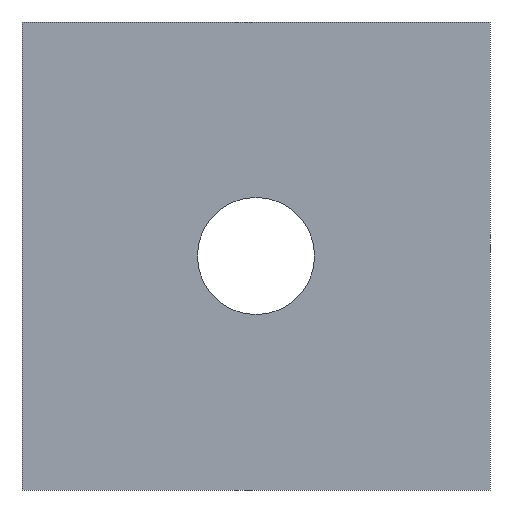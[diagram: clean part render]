
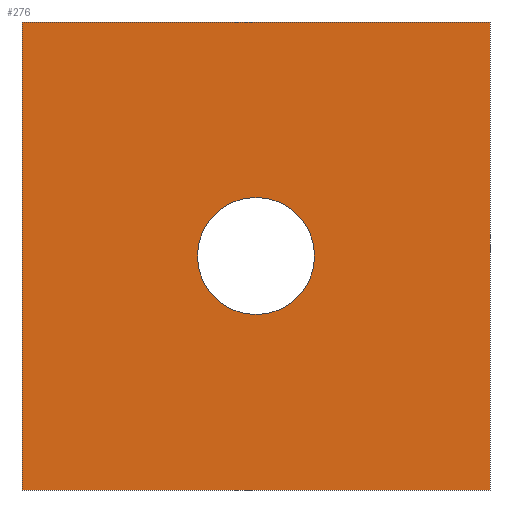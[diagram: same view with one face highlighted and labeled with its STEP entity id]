
A CAD part, front view. The second image highlights one B-rep face of the part: STEP entity #276.
In plain terms, the highlighted planar face has unit normal (0, -1, 0).
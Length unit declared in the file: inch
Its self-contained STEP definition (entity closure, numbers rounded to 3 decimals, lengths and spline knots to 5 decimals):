
#3 = EDGE_CURVE ( 'NONE', #176, #210, #173, .T. ) ;
#8 = EDGE_CURVE ( 'NONE', #178, #212, #179, .T. ) ;
#12 = EDGE_CURVE ( 'NONE', #212, #227, #245, .T. ) ;
#13 = EDGE_CURVE ( 'NONE', #195, #178, #259, .T. ) ;
#18 = AXIS2_PLACEMENT_3D ( 'NONE', #64, #48, #53 ) ;
#20 = AXIS2_PLACEMENT_3D ( 'NONE', #96, #104, #97 ) ;
#23 = EDGE_CURVE ( 'NONE', #210, #176, #253, .T. ) ;
#24 = EDGE_CURVE ( 'NONE', #227, #195, #230, .T. ) ;
#42 = AXIS2_PLACEMENT_3D ( 'NONE', #116, #73, #74 ) ;
#48 = DIRECTION ( 'NONE',  ( 0., 1., 0. ) ) ;
#53 = DIRECTION ( 'NONE',  ( 0., 0., 1. ) ) ;
#55 = CARTESIAN_POINT ( 'NONE',  ( 0., 0., -1.5 ) ) ;
#64 = CARTESIAN_POINT ( 'NONE',  ( 0.75, 0., -0.75 ) ) ;
#70 = DIRECTION ( 'NONE',  ( -1., 0., 0. ) ) ;
#71 = CARTESIAN_POINT ( 'NONE',  ( 0.75, 0., -0.9375 ) ) ;
#73 = DIRECTION ( 'NONE',  ( 0., -1., 0. ) ) ;
#74 = DIRECTION ( 'NONE',  ( 0., 0., -1. ) ) ;
#79 = CARTESIAN_POINT ( 'NONE',  ( 0., 0., 0. ) ) ;
#80 = DIRECTION ( 'NONE',  ( 0., 0., -1. ) ) ;
#81 = CARTESIAN_POINT ( 'NONE',  ( 0., 0., 0. ) ) ;
#83 = CARTESIAN_POINT ( 'NONE',  ( 1.5, 0., -1.5 ) ) ;
#94 = CARTESIAN_POINT ( 'NONE',  ( 1.5, 0., 0. ) ) ;
#96 = CARTESIAN_POINT ( 'NONE',  ( 0.75, 0., -0.75 ) ) ;
#97 = DIRECTION ( 'NONE',  ( 0., 0., 1. ) ) ;
#99 = PLANE ( 'NONE',  #42 ) ;
#101 = CARTESIAN_POINT ( 'NONE',  ( 1.5, 0., 0. ) ) ;
#104 = DIRECTION ( 'NONE',  ( 0., 1., 0. ) ) ;
#106 = CARTESIAN_POINT ( 'NONE',  ( 0., 0., -1.5 ) ) ;
#110 = DIRECTION ( 'NONE',  ( 0., 0., 1. ) ) ;
#112 = CARTESIAN_POINT ( 'NONE',  ( 0.75, 0., -0.5625 ) ) ;
#115 = DIRECTION ( 'NONE',  ( 1., 0., 0. ) ) ;
#116 = CARTESIAN_POINT ( 'NONE',  ( 0., 0., -1.5 ) ) ;
#118 = CARTESIAN_POINT ( 'NONE',  ( 0., 0., 0. ) ) ;
#158 = ORIENTED_EDGE ( 'NONE', *, *, #12, .F. ) ;
#159 = ORIENTED_EDGE ( 'NONE', *, *, #23, .T. ) ;
#160 = ORIENTED_EDGE ( 'NONE', *, *, #8, .F. ) ;
#161 = ORIENTED_EDGE ( 'NONE', *, *, #13, .F. ) ;
#164 = ORIENTED_EDGE ( 'NONE', *, *, #24, .F. ) ;
#172 = EDGE_LOOP ( 'NONE', ( #159, #198 ) ) ;
#173 = CIRCLE ( 'NONE', #18, 0.1875 ) ;
#176 = VERTEX_POINT ( 'NONE', #112 ) ;
#178 = VERTEX_POINT ( 'NONE', #83 ) ;
#179 = LINE ( 'NONE', #55, #182 ) ;
#182 = VECTOR ( 'NONE', #70, 39.37008 ) ;
#195 = VERTEX_POINT ( 'NONE', #101 ) ;
#198 = ORIENTED_EDGE ( 'NONE', *, *, #3, .T. ) ;
#210 = VERTEX_POINT ( 'NONE', #71 ) ;
#212 = VERTEX_POINT ( 'NONE', #106 ) ;
#222 = EDGE_LOOP ( 'NONE', ( #158, #160, #161, #164 ) ) ;
#227 = VERTEX_POINT ( 'NONE', #79 ) ;
#230 = LINE ( 'NONE', #81, #251 ) ;
#231 = FACE_OUTER_BOUND ( 'NONE', #222, .T. ) ;
#234 = VECTOR ( 'NONE', #80, 39.37008 ) ;
#245 = LINE ( 'NONE', #118, #250 ) ;
#250 = VECTOR ( 'NONE', #110, 39.37008 ) ;
#251 = VECTOR ( 'NONE', #115, 39.37008 ) ;
#253 = CIRCLE ( 'NONE', #20, 0.1875 ) ;
#259 = LINE ( 'NONE', #94, #234 ) ;
#260 = FACE_BOUND ( 'NONE', #172, .T. ) ;
#276 = ADVANCED_FACE ( 'NONE', ( #231, #260 ), #99, .T. ) ;
